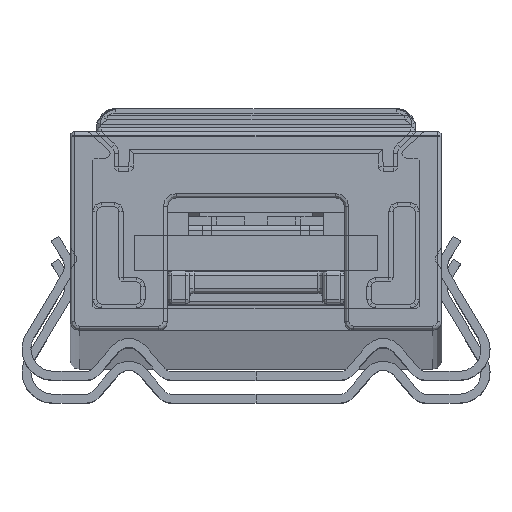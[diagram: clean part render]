
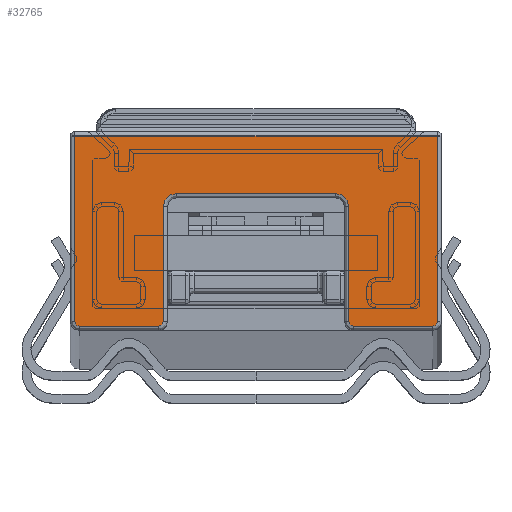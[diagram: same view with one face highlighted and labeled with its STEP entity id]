
A CAD part, top view. The second image highlights one B-rep face of the part: STEP entity #32765.
In plain terms, the highlighted planar face has unit normal (0, 0, 1).
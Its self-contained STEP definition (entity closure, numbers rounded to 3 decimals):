
#173 = CARTESIAN_POINT ( 'NONE',  ( -3.6, 5.6, 1. ) ) ;
#424 = DIRECTION ( 'NONE',  ( 1., 0., 0. ) ) ;
#899 = VECTOR ( 'NONE', #20934, 1000. ) ;
#1295 = EDGE_LOOP ( 'NONE', ( #13938, #15321, #3743, #24079, #3741, #15556, #5199, #22395, #4517, #25331, #17283, #28683, #31050, #32880 ) ) ;
#1311 = CARTESIAN_POINT ( 'NONE',  ( 4.4, 0.4, 1. ) ) ;
#1594 = VERTEX_POINT ( 'NONE', #11880 ) ;
#1983 = AXIS2_PLACEMENT_3D ( 'NONE', #26367, #16150, #2219 ) ;
#2219 = DIRECTION ( 'NONE',  ( 1., 0., 0. ) ) ;
#3107 = LINE ( 'NONE', #19498, #6912 ) ;
#3120 = VERTEX_POINT ( 'NONE', #13978 ) ;
#3143 = CARTESIAN_POINT ( 'NONE',  ( 8., 0.4, 1. ) ) ;
#3158 = CARTESIAN_POINT ( 'NONE',  ( 8.2, 8.8, 1. ) ) ;
#3181 = CARTESIAN_POINT ( 'NONE',  ( -8., 0.2, 1. ) ) ;
#3273 = EDGE_CURVE ( 'NONE', #31267, #7690, #17833, .T. ) ;
#3741 = ORIENTED_EDGE ( 'NONE', *, *, #23853, .T. ) ;
#3743 = ORIENTED_EDGE ( 'NONE', *, *, #3273, .T. ) ;
#4005 = DIRECTION ( 'NONE',  ( 0., 0., -1. ) ) ;
#4497 = CARTESIAN_POINT ( 'NONE',  ( 4.2, 0.4, 1. ) ) ;
#4517 = ORIENTED_EDGE ( 'NONE', *, *, #13524, .T. ) ;
#5097 = VERTEX_POINT ( 'NONE', #10642 ) ;
#5199 = ORIENTED_EDGE ( 'NONE', *, *, #20548, .T. ) ;
#5563 = AXIS2_PLACEMENT_3D ( 'NONE', #12764, #20704, #28818 ) ;
#6033 = EDGE_CURVE ( 'NONE', #16682, #3120, #3107, .T. ) ;
#6473 = VERTEX_POINT ( 'NONE', #8846 ) ;
#6572 = VECTOR ( 'NONE', #8615, 1000. ) ;
#6912 = VECTOR ( 'NONE', #16517, 1000. ) ;
#6947 = EDGE_CURVE ( 'NONE', #1594, #6991, #14440, .T. ) ;
#6961 = VECTOR ( 'NONE', #24508, 1000. ) ;
#6991 = VERTEX_POINT ( 'NONE', #3158 ) ;
#7071 = CARTESIAN_POINT ( 'NONE',  ( -4.4, 0.2, 1. ) ) ;
#7189 = CARTESIAN_POINT ( 'NONE',  ( -8.4, 8.8, 1. ) ) ;
#7204 = VERTEX_POINT ( 'NONE', #7542 ) ;
#7542 = CARTESIAN_POINT ( 'NONE',  ( 3.6, 6.2, 1. ) ) ;
#7690 = VERTEX_POINT ( 'NONE', #10689 ) ;
#7797 = CARTESIAN_POINT ( 'NONE',  ( -4.2, 5.6, 1. ) ) ;
#8615 = DIRECTION ( 'NONE',  ( 1., 0., 0. ) ) ;
#8803 = CIRCLE ( 'NONE', #24014, 0.2 ) ;
#8812 = EDGE_CURVE ( 'NONE', #7204, #5097, #20546, .T. ) ;
#8846 = CARTESIAN_POINT ( 'NONE',  ( 4.4, 0.2, 1. ) ) ;
#8848 = CIRCLE ( 'NONE', #25744, 0.2 ) ;
#9980 = DIRECTION ( 'NONE',  ( 0., -1., 0. ) ) ;
#10238 = VERTEX_POINT ( 'NONE', #7797 ) ;
#10642 = CARTESIAN_POINT ( 'NONE',  ( 4.2, 5.6, 1. ) ) ;
#10652 = CIRCLE ( 'NONE', #5563, 0.2 ) ;
#10689 = CARTESIAN_POINT ( 'NONE',  ( -4.4, 0.2, 1. ) ) ;
#10753 = EDGE_CURVE ( 'NONE', #33242, #1594, #8848, .T. ) ;
#10829 = EDGE_CURVE ( 'NONE', #6473, #33242, #32775, .T. ) ;
#11272 = DIRECTION ( 'NONE',  ( 1., 0., 0. ) ) ;
#11338 = DIRECTION ( 'NONE',  ( 0., 0., 1. ) ) ;
#11714 = LINE ( 'NONE', #19812, #20922 ) ;
#11880 = CARTESIAN_POINT ( 'NONE',  ( 8.2, 0.4, 1. ) ) ;
#12122 = EDGE_CURVE ( 'NONE', #6991, #16682, #20414, .T. ) ;
#12543 = DIRECTION ( 'NONE',  ( 1., 0., 0. ) ) ;
#12664 = CARTESIAN_POINT ( 'NONE',  ( -8.2, 8.8, 1. ) ) ;
#12764 = CARTESIAN_POINT ( 'NONE',  ( -8., 0.4, 1. ) ) ;
#12851 = VERTEX_POINT ( 'NONE', #32435 ) ;
#12854 = CIRCLE ( 'NONE', #21865, 0.2 ) ;
#13492 = VECTOR ( 'NONE', #12543, 1000. ) ;
#13524 = EDGE_CURVE ( 'NONE', #5097, #21226, #21063, .T. ) ;
#13551 = LINE ( 'NONE', #24299, #30209 ) ;
#13938 = ORIENTED_EDGE ( 'NONE', *, *, #6033, .T. ) ;
#13978 = CARTESIAN_POINT ( 'NONE',  ( -8.2, 0.4, 1. ) ) ;
#14440 = LINE ( 'NONE', #17251, #6961 ) ;
#14728 = AXIS2_PLACEMENT_3D ( 'NONE', #15256, #33773, #20363 ) ;
#14920 = EDGE_CURVE ( 'NONE', #21226, #6473, #8803, .T. ) ;
#15256 = CARTESIAN_POINT ( 'NONE',  ( 0., 0., 1. ) ) ;
#15321 = ORIENTED_EDGE ( 'NONE', *, *, #21949, .T. ) ;
#15556 = ORIENTED_EDGE ( 'NONE', *, *, #19754, .T. ) ;
#15815 = AXIS2_PLACEMENT_3D ( 'NONE', #173, #4005, #16889 ) ;
#16150 = DIRECTION ( 'NONE',  ( 0., 0., -1. ) ) ;
#16517 = DIRECTION ( 'NONE',  ( 0., -1., 0. ) ) ;
#16682 = VERTEX_POINT ( 'NONE', #12664 ) ;
#16830 = DIRECTION ( 'NONE',  ( 1., 0., 0. ) ) ;
#16889 = DIRECTION ( 'NONE',  ( 1., 0., 0. ) ) ;
#17251 = CARTESIAN_POINT ( 'NONE',  ( 8.2, 9., 1. ) ) ;
#17283 = ORIENTED_EDGE ( 'NONE', *, *, #10829, .T. ) ;
#17507 = CIRCLE ( 'NONE', #15815, 0.6 ) ;
#17516 = CARTESIAN_POINT ( 'NONE',  ( 8., 0.2, 1. ) ) ;
#17833 = LINE ( 'NONE', #7071, #13492 ) ;
#19498 = CARTESIAN_POINT ( 'NONE',  ( -8.2, 0.4, 1. ) ) ;
#19707 = CARTESIAN_POINT ( 'NONE',  ( 8., 0.2, 1. ) ) ;
#19754 = EDGE_CURVE ( 'NONE', #10238, #23266, #17507, .T. ) ;
#19812 = CARTESIAN_POINT ( 'NONE',  ( 3.6, 6.2, 1. ) ) ;
#20363 = DIRECTION ( 'NONE',  ( 1., 0., 0. ) ) ;
#20414 = LINE ( 'NONE', #7189, #899 ) ;
#20546 = CIRCLE ( 'NONE', #1983, 0.6 ) ;
#20548 = EDGE_CURVE ( 'NONE', #23266, #7204, #11714, .T. ) ;
#20704 = DIRECTION ( 'NONE',  ( 0., 0., 1. ) ) ;
#20922 = VECTOR ( 'NONE', #22994, 1000. ) ;
#20934 = DIRECTION ( 'NONE',  ( -1., 0., 0. ) ) ;
#21063 = LINE ( 'NONE', #4497, #21700 ) ;
#21226 = VERTEX_POINT ( 'NONE', #30106 ) ;
#21700 = VECTOR ( 'NONE', #9980, 1000. ) ;
#21742 = CARTESIAN_POINT ( 'NONE',  ( -3.6, 6.2, 1. ) ) ;
#21865 = AXIS2_PLACEMENT_3D ( 'NONE', #32500, #11338, #424 ) ;
#21949 = EDGE_CURVE ( 'NONE', #3120, #31267, #10652, .T. ) ;
#22395 = ORIENTED_EDGE ( 'NONE', *, *, #8812, .T. ) ;
#22994 = DIRECTION ( 'NONE',  ( 1., 0., 0. ) ) ;
#23266 = VERTEX_POINT ( 'NONE', #21742 ) ;
#23595 = DIRECTION ( 'NONE',  ( 0., 1., 0. ) ) ;
#23853 = EDGE_CURVE ( 'NONE', #12851, #10238, #13551, .T. ) ;
#24014 = AXIS2_PLACEMENT_3D ( 'NONE', #1311, #28096, #16830 ) ;
#24079 = ORIENTED_EDGE ( 'NONE', *, *, #29692, .T. ) ;
#24299 = CARTESIAN_POINT ( 'NONE',  ( -4.2, 5.6, 1. ) ) ;
#24508 = DIRECTION ( 'NONE',  ( 0., 1., 0. ) ) ;
#25331 = ORIENTED_EDGE ( 'NONE', *, *, #14920, .T. ) ;
#25744 = AXIS2_PLACEMENT_3D ( 'NONE', #3143, #30125, #11272 ) ;
#26367 = CARTESIAN_POINT ( 'NONE',  ( 3.6, 5.6, 1. ) ) ;
#28096 = DIRECTION ( 'NONE',  ( 0., 0., 1. ) ) ;
#28683 = ORIENTED_EDGE ( 'NONE', *, *, #10753, .T. ) ;
#28818 = DIRECTION ( 'NONE',  ( 1., 0., 0. ) ) ;
#29692 = EDGE_CURVE ( 'NONE', #7690, #12851, #12854, .T. ) ;
#30106 = CARTESIAN_POINT ( 'NONE',  ( 4.2, 0.4, 1. ) ) ;
#30125 = DIRECTION ( 'NONE',  ( 0., 0., 1. ) ) ;
#30209 = VECTOR ( 'NONE', #23595, 1000. ) ;
#30956 = PLANE ( 'NONE',  #14728 ) ;
#31050 = ORIENTED_EDGE ( 'NONE', *, *, #6947, .T. ) ;
#31267 = VERTEX_POINT ( 'NONE', #3181 ) ;
#32435 = CARTESIAN_POINT ( 'NONE',  ( -4.2, 0.4, 1. ) ) ;
#32500 = CARTESIAN_POINT ( 'NONE',  ( -4.4, 0.4, 1. ) ) ;
#32765 = ADVANCED_FACE ( 'NONE', ( #33595 ), #30956, .T. ) ;
#32775 = LINE ( 'NONE', #19707, #6572 ) ;
#32880 = ORIENTED_EDGE ( 'NONE', *, *, #12122, .T. ) ;
#33242 = VERTEX_POINT ( 'NONE', #17516 ) ;
#33595 = FACE_OUTER_BOUND ( 'NONE', #1295, .T. ) ;
#33773 = DIRECTION ( 'NONE',  ( 0., 0., 1. ) ) ;
